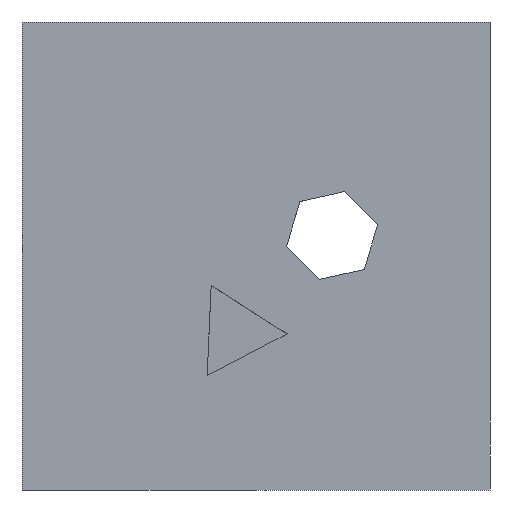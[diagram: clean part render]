
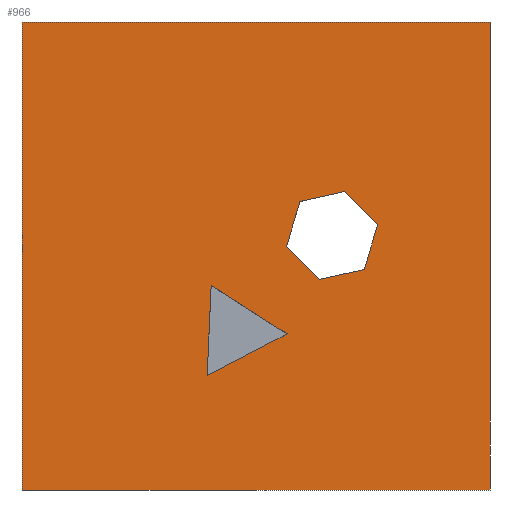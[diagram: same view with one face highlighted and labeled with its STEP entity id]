
A CAD part, left-side view. The second image highlights one B-rep face of the part: STEP entity #966.
In plain terms, the highlighted planar face has unit normal (-1, 0, 0).
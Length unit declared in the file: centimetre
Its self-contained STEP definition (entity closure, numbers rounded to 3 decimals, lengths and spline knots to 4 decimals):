
#13 = CARTESIAN_POINT ( 'NONE',  ( 0., 433.5628, 333.474 ) ) ;
#35 = CARTESIAN_POINT ( 'NONE',  ( 0., 1000., 1000. ) ) ;
#54 = EDGE_CURVE ( 'NONE', #497, #145, #1367, .T. ) ;
#63 = LINE ( 'NONE', #817, #105 ) ;
#73 = CARTESIAN_POINT ( 'NONE',  ( 0., 434.6651, 520.6467 ) ) ;
#105 = VECTOR ( 'NONE', #731, 100. ) ;
#116 = CARTESIAN_POINT ( 'NONE',  ( 0., 434.6651, 520.6467 ) ) ;
#125 = VECTOR ( 'NONE', #505, 100. ) ;
#137 = VERTEX_POINT ( 'NONE', #740 ) ;
#144 = EDGE_CURVE ( 'NONE', #553, #1197, #175, .T. ) ;
#145 = VERTEX_POINT ( 'NONE', #1386 ) ;
#150 = ORIENTED_EDGE ( 'NONE', *, *, #54, .F. ) ;
#154 = CARTESIAN_POINT ( 'NONE',  ( 0., 240.1218, 567.0702 ) ) ;
#160 = CARTESIAN_POINT ( 'NONE',  ( 0., 595.7873, 437.0741 ) ) ;
#175 = LINE ( 'NONE', #840, #799 ) ;
#190 = CARTESIAN_POINT ( 'NONE',  ( 0., 310.8077, 637.7561 ) ) ;
#194 = DIRECTION ( 'NONE',  ( 0., 0., -1. ) ) ;
#200 = ORIENTED_EDGE ( 'NONE', *, *, #390, .F. ) ;
#211 = DIRECTION ( 'NONE',  ( 0., 0., -1. ) ) ;
#230 = ORIENTED_EDGE ( 'NONE', *, *, #258, .F. ) ;
#238 = LINE ( 'NONE', #860, #125 ) ;
#244 = EDGE_CURVE ( 'NONE', #452, #497, #314, .T. ) ;
#258 = EDGE_CURVE ( 'NONE', #571, #1227, #399, .T. ) ;
#265 = VECTOR ( 'NONE', #1022, 100. ) ;
#286 = VECTOR ( 'NONE', #1107, 100. ) ;
#291 = ORIENTED_EDGE ( 'NONE', *, *, #856, .F. ) ;
#299 = DIRECTION ( 'NONE',  ( 0., 0.045, -0.999 ) ) ;
#307 = LINE ( 'NONE', #160, #309 ) ;
#309 = VECTOR ( 'NONE', #299, 100. ) ;
#314 = LINE ( 'NONE', #73, #579 ) ;
#315 = ORIENTED_EDGE ( 'NONE', *, *, #244, .F. ) ;
#330 = CARTESIAN_POINT ( 'NONE',  ( 0., 310.8077, 637.7561 ) ) ;
#361 = EDGE_CURVE ( 'NONE', #832, #553, #1003, .T. ) ;
#390 = EDGE_CURVE ( 'NONE', #137, #1197, #558, .T. ) ;
#391 = LINE ( 'NONE', #849, #541 ) ;
#396 = VERTEX_POINT ( 'NONE', #330 ) ;
#399 = LINE ( 'NONE', #1057, #662 ) ;
#440 = CARTESIAN_POINT ( 'NONE',  ( 0., 1000., 1000. ) ) ;
#452 = VERTEX_POINT ( 'NONE', #116 ) ;
#476 = CARTESIAN_POINT ( 'NONE',  ( 0., 363.9793, 449.9609 ) ) ;
#492 = ORIENTED_EDGE ( 'NONE', *, *, #361, .T. ) ;
#497 = VERTEX_POINT ( 'NONE', #892 ) ;
#505 = DIRECTION ( 'NONE',  ( 0., 0.285, -0.958 ) ) ;
#510 = VECTOR ( 'NONE', #211, 100. ) ;
#518 = DIRECTION ( 'NONE',  ( 0., -0.707, -0.707 ) ) ;
#521 = LINE ( 'NONE', #974, #265 ) ;
#541 = VECTOR ( 'NONE', #1279, 100. ) ;
#553 = VERTEX_POINT ( 'NONE', #1277 ) ;
#558 = LINE ( 'NONE', #1223, #286 ) ;
#559 = CARTESIAN_POINT ( 'NONE',  ( 0., 0., 0. ) ) ;
#571 = VERTEX_POINT ( 'NONE', #712 ) ;
#579 = VECTOR ( 'NONE', #518, 100. ) ;
#582 = EDGE_LOOP ( 'NONE', ( #230, #807, #291 ) ) ;
#636 = DIRECTION ( 'NONE',  ( 0., 0.976, -0.218 ) ) ;
#657 = EDGE_LOOP ( 'NONE', ( #1245, #702, #783, #1126, #150, #315 ) ) ;
#660 = CARTESIAN_POINT ( 'NONE',  ( 0., 433.5628, 333.474 ) ) ;
#662 = VECTOR ( 'NONE', #760, 100. ) ;
#674 = EDGE_CURVE ( 'NONE', #927, #396, #63, .T. ) ;
#677 = ORIENTED_EDGE ( 'NONE', *, *, #805, .F. ) ;
#678 = LINE ( 'NONE', #660, #841 ) ;
#702 = ORIENTED_EDGE ( 'NONE', *, *, #730, .F. ) ;
#712 = CARTESIAN_POINT ( 'NONE',  ( 0., 604.3953, 244.7834 ) ) ;
#719 = CARTESIAN_POINT ( 'NONE',  ( 0., 406.1313, 616.4923 ) ) ;
#730 = EDGE_CURVE ( 'NONE', #396, #776, #1175, .T. ) ;
#731 = DIRECTION ( 'NONE',  ( 0., 0.707, 0.707 ) ) ;
#738 = ORIENTED_EDGE ( 'NONE', *, *, #144, .T. ) ;
#740 = CARTESIAN_POINT ( 'NONE',  ( 0., 0., 1000. ) ) ;
#760 = DIRECTION ( 'NONE',  ( 0., -0.888, 0.461 ) ) ;
#776 = VERTEX_POINT ( 'NONE', #719 ) ;
#783 = ORIENTED_EDGE ( 'NONE', *, *, #674, .F. ) ;
#799 = VECTOR ( 'NONE', #1278, 100. ) ;
#805 = EDGE_CURVE ( 'NONE', #832, #137, #391, .T. ) ;
#807 = ORIENTED_EDGE ( 'NONE', *, *, #913, .F. ) ;
#816 = EDGE_CURVE ( 'NONE', #145, #927, #521, .T. ) ;
#817 = CARTESIAN_POINT ( 'NONE',  ( 0., 240.1218, 567.0702 ) ) ;
#818 = VECTOR ( 'NONE', #1140, 100. ) ;
#832 = VERTEX_POINT ( 'NONE', #35 ) ;
#840 = CARTESIAN_POINT ( 'NONE',  ( 0., 1000., 0. ) ) ;
#841 = VECTOR ( 'NONE', #1096, 100. ) ;
#849 = CARTESIAN_POINT ( 'NONE',  ( 0., 1000., 1000. ) ) ;
#856 = EDGE_CURVE ( 'NONE', #1227, #1237, #678, .T. ) ;
#860 = CARTESIAN_POINT ( 'NONE',  ( 0., 406.1313, 616.4923 ) ) ;
#865 = DIRECTION ( 'NONE',  ( 1., 0., 0. ) ) ;
#892 = CARTESIAN_POINT ( 'NONE',  ( 0., 363.9793, 449.9609 ) ) ;
#904 = CARTESIAN_POINT ( 'NONE',  ( 0., 595.7873, 437.0741 ) ) ;
#910 = EDGE_CURVE ( 'NONE', #776, #452, #238, .T. ) ;
#913 = EDGE_CURVE ( 'NONE', #1237, #571, #307, .T. ) ;
#927 = VERTEX_POINT ( 'NONE', #154 ) ;
#935 = EDGE_LOOP ( 'NONE', ( #738, #200, #677, #492 ) ) ;
#944 = VECTOR ( 'NONE', #636, 100. ) ;
#958 = FACE_BOUND ( 'NONE', #657, .T. ) ;
#966 = ADVANCED_FACE ( 'NONE', ( #1058, #958, #1005 ), #991, .F. ) ;
#974 = CARTESIAN_POINT ( 'NONE',  ( 0., 268.6557, 471.2246 ) ) ;
#991 = PLANE ( 'NONE',  #1232 ) ;
#1003 = LINE ( 'NONE', #440, #510 ) ;
#1005 = FACE_OUTER_BOUND ( 'NONE', #935, .T. ) ;
#1022 = DIRECTION ( 'NONE',  ( 0., -0.285, 0.958 ) ) ;
#1057 = CARTESIAN_POINT ( 'NONE',  ( 0., 604.3953, 244.7834 ) ) ;
#1058 = FACE_BOUND ( 'NONE', #582, .T. ) ;
#1096 = DIRECTION ( 'NONE',  ( 0., 0.843, 0.538 ) ) ;
#1107 = DIRECTION ( 'NONE',  ( 0., 0., -1. ) ) ;
#1126 = ORIENTED_EDGE ( 'NONE', *, *, #816, .F. ) ;
#1140 = DIRECTION ( 'NONE',  ( 0., -0.976, 0.218 ) ) ;
#1175 = LINE ( 'NONE', #190, #944 ) ;
#1183 = CARTESIAN_POINT ( 'NONE',  ( 0., 1000., 1000. ) ) ;
#1197 = VERTEX_POINT ( 'NONE', #559 ) ;
#1223 = CARTESIAN_POINT ( 'NONE',  ( 0., 0., 1000. ) ) ;
#1227 = VERTEX_POINT ( 'NONE', #13 ) ;
#1232 = AXIS2_PLACEMENT_3D ( 'NONE', #1183, #865, #194 ) ;
#1237 = VERTEX_POINT ( 'NONE', #904 ) ;
#1245 = ORIENTED_EDGE ( 'NONE', *, *, #910, .F. ) ;
#1277 = CARTESIAN_POINT ( 'NONE',  ( 0., 1000., 0. ) ) ;
#1278 = DIRECTION ( 'NONE',  ( 0., -1., 0. ) ) ;
#1279 = DIRECTION ( 'NONE',  ( 0., -1., 0. ) ) ;
#1367 = LINE ( 'NONE', #476, #818 ) ;
#1386 = CARTESIAN_POINT ( 'NONE',  ( 0., 268.6557, 471.2246 ) ) ;
